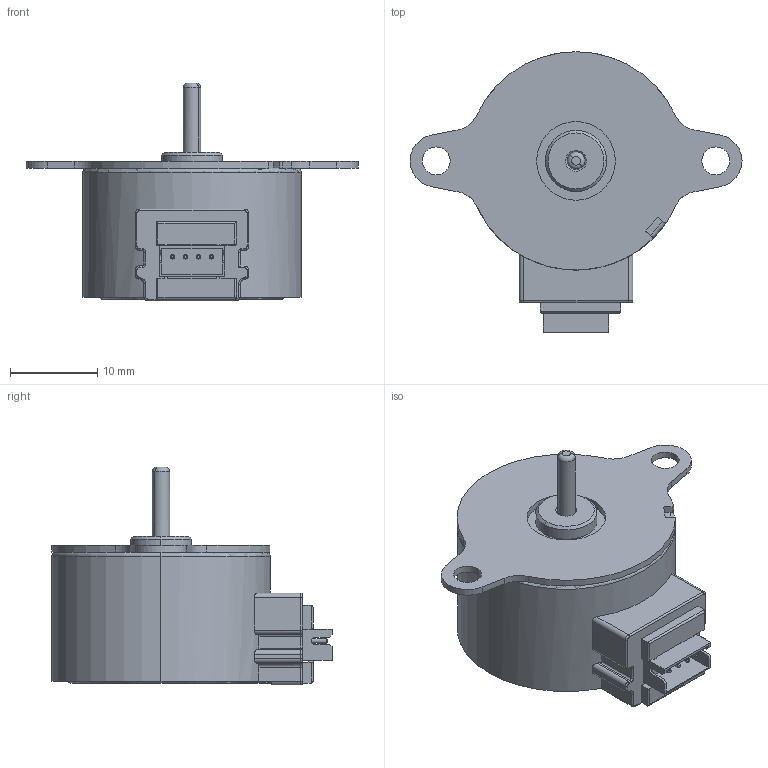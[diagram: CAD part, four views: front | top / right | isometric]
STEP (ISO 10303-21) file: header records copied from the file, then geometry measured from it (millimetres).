
FILE_DESCRIPTION (( 'STEP AP203' ), '1' );
FILE_NAME ('KFL25LC_3D.STEP', '2026-09-09T06:03:52', ( '' ), ( '' ), 'SwSTEP 2.0', 'SolidWorks 2026', '' );
FILE_SCHEMA (( 'CONFIG_CONTROL_DESIGN' ));
Length unit declared in the file: millimetre
Products named in the file (1): KFL25LC_3D
Bounding box: 38 x 32.1 x 24.95 mm (x, y, z)
Volume: 8379.1 mm3; surface area: 3101.2 mm2
Topology: 1 solids, 3 shells, 276 faces, 707 edges, 441 vertices
Faces by surface type: cylinder 120, plane 103, torus 31, cone 18, sphere 4
Entity records: 8500 total; most frequent: CARTESIAN_POINT 1622, DIRECTION 1484, ORIENTED_EDGE 1406, EDGE_CURVE 703, AXIS2_PLACEMENT_3D 552, VERTEX_POINT 441, LINE 380, VECTOR 380
